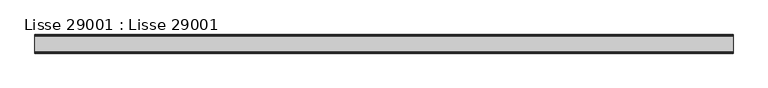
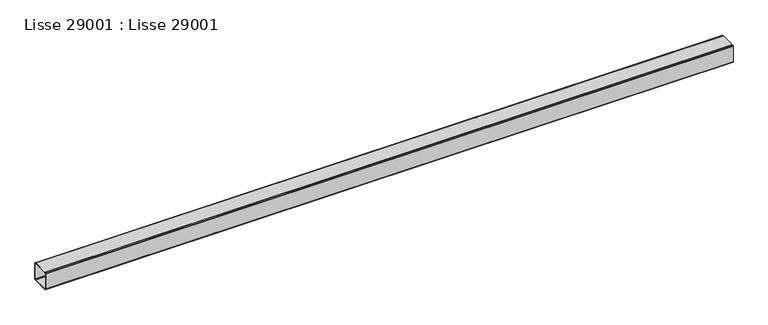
"""IFC4 building model written with IfcOpenShell, lengths in millimetres: beam geometry, Lisse 29001 : Lisse 29001."""

from ifc_helpers import new_model, si_unit, frame, origin, place, context, project, spatial, polyline, outline, extrude, source, transform, mapped, element, save


def lisse_29001_lisse_29001_18a444d3(model_context):
    return source(origin(), model_context, "Body", "SweptSolid", [
        extrude(outline(polyline([(-19772.0, 8320.4153428), (-19684.0, 8320.4153428), (-19681.0, 8319.6114952), (-19678.8038476, 8317.4153428), (-19678.0, 8314.4153428), (-19678.0, 8226.4153428), (-19678.8038476, 8223.4153428), (-19681.0, 8221.2191903), (-19684.0, 8220.4153428), (-19772.0, 8220.4153428), (-19775.0, 8221.2191903), (-19777.1961524, 8223.4153428), (-19778.0, 8226.4153428), (-19778.0, 8314.4153428), (-19777.1961524, 8317.4153428), (-19775.0, 8319.6114952), (-19772.0, 8320.4153428)]), holes=[polyline([(-19774.0, 8312.4153428), (-19774.0, 8228.4153428), (-19773.4641016, 8226.4153428), (-19772.0, 8224.9512411), (-19770.0, 8224.4153428), (-19686.0, 8224.4153428), (-19684.0, 8224.9512411), (-19682.5358984, 8226.4153428), (-19682.0, 8228.4153428), (-19682.0, 8312.4153428), (-19682.5358984, 8314.4153428), (-19684.0, 8315.8794444), (-19686.0, 8316.4153428), (-19770.0, 8316.4153428), (-19772.0, 8315.8794444), (-19773.4641016, 8314.4153428), (-19774.0, 8312.4153428)])]), frame((7679.9999999, 0.0, 0.0), z_axis=(1.0, 0.0, 0.0), x_axis=(0.0, 1.0, 0.0)), (0.0, 0.0, 1.0), 3742.2815708),
    ])


if __name__ == "__main__":
    model = new_model("IFC4")
    model_context = context("Model", 3, world=origin())
    ifc_project = project(units=[si_unit("LENGTHUNIT", "METRE", prefix="MILLI")], contexts=[model_context])
    site = spatial("IfcSite", under=ifc_project)
    building = spatial("IfcBuilding", under=site)
    placement = place(None, origin())
    lisse_29001_lisse_29001_shape = lisse_29001_lisse_29001_18a444d3(model_context)
    element("IfcBeam", 1, ObjectType="Lisse 29001 : Lisse 29001", at=placement, inside=building, context=model_context, shape_type="MappedRepresentation", body=[
        mapped(lisse_29001_lisse_29001_shape, transform((0.0, 0.0, 0.0), x_axis=(1.0, 0.0, 0.0), y_axis=(0.0, 1.0, 0.0), z_axis=(0.0, 0.0, 1.0))),
    ])
    save(model, "model.ifc")
